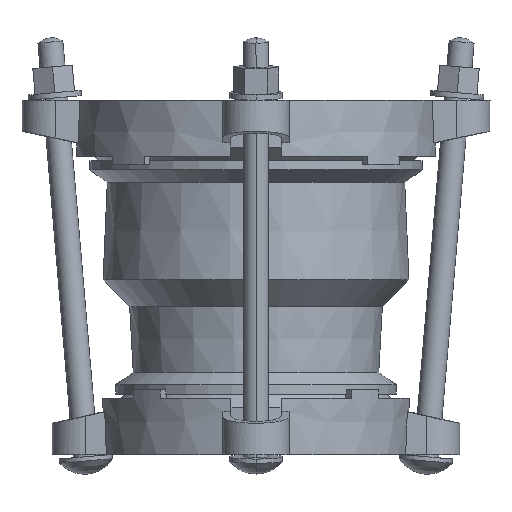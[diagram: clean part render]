
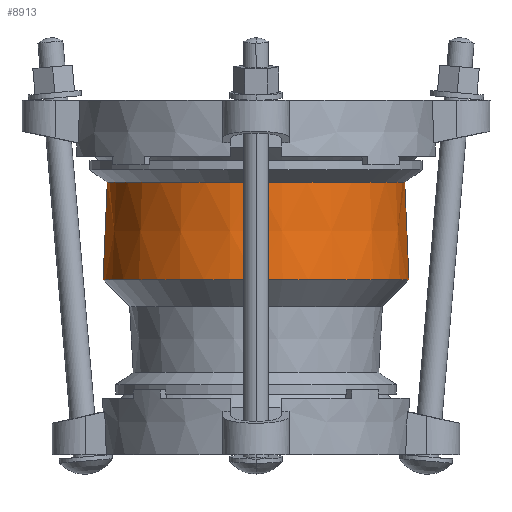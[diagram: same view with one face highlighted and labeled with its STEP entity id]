
A CAD part, left-side view. The second image highlights one B-rep face of the part: STEP entity #8913.
In plain terms, the highlighted conical face has half-angle 2.442 degrees and reference radius 72.351 mm.
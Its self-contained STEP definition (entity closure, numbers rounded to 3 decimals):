
#8546=DIRECTION('',(0.,-0.043,0.999));
#8547=VECTOR('',#8546,46.933);
#8548=CARTESIAN_POINT('',(0.,73.351,-86.272));
#8549=LINE('',#8548,#8547);
#8555=DIRECTION('',(0.,0.043,0.999));
#8556=VECTOR('',#8555,46.933);
#8557=CARTESIAN_POINT('',(0.,-73.351,
-86.272));
#8558=LINE('',#8557,#8556);
#8559=CARTESIAN_POINT('',(0.,0.,-86.272));
#8560=DIRECTION('',(0.,0.,1.));
#8561=DIRECTION('',(0.,1.,0.));
#8562=AXIS2_PLACEMENT_3D('',#8559,#8560,#8561);
#8564=CARTESIAN_POINT('',(0.,0.,-39.381));
#8565=DIRECTION('',(0.,0.,1.));
#8566=DIRECTION('',(0.,1.,0.));
#8567=AXIS2_PLACEMENT_3D('',#8564,#8565,#8566);
#8706=CARTESIAN_POINT('',(0.,73.351,-86.272));
#8707=VERTEX_POINT('',#8706);
#8708=CARTESIAN_POINT('',(0.,71.351,-39.381));
#8709=VERTEX_POINT('',#8708);
#8734=CARTESIAN_POINT('',(0.,-73.351,
-86.272));
#8735=VERTEX_POINT('',#8734);
#8736=CARTESIAN_POINT('',(0.,-71.351,
-39.381));
#8737=VERTEX_POINT('',#8736);
#8901=CARTESIAN_POINT('',(0.,0.,-62.826));
#8902=DIRECTION('',(0.,0.,-1.));
#8903=DIRECTION('',(0.,-1.,0.));
#8904=AXIS2_PLACEMENT_3D('',#8901,#8902,#8903);
#8905=CONICAL_SURFACE('',#8904,72.351,2.442);
#8906=ORIENTED_EDGE('',*,*,#8891,.T.);
#8908=ORIENTED_EDGE('',*,*,#8907,.T.);
#8909=ORIENTED_EDGE('',*,*,#8894,.F.);
#8910=ORIENTED_EDGE('',*,*,#8865,.F.);
#8911=EDGE_LOOP('',(#8906,#8908,#8909,#8910));
#8912=FACE_OUTER_BOUND('',#8911,.F.);
#8913=ADVANCED_FACE('',(#8912),#8905,.T.);
#8563=CIRCLE('',#8562,73.351);
#8568=CIRCLE('',#8567,71.351);
#8865=EDGE_CURVE('',#8707,#8735,#8563,.T.);
#8891=EDGE_CURVE('',#8707,#8709,#8549,.T.);
#8894=EDGE_CURVE('',#8735,#8737,#8558,.T.);
#8907=EDGE_CURVE('',#8709,#8737,#8568,.T.);
